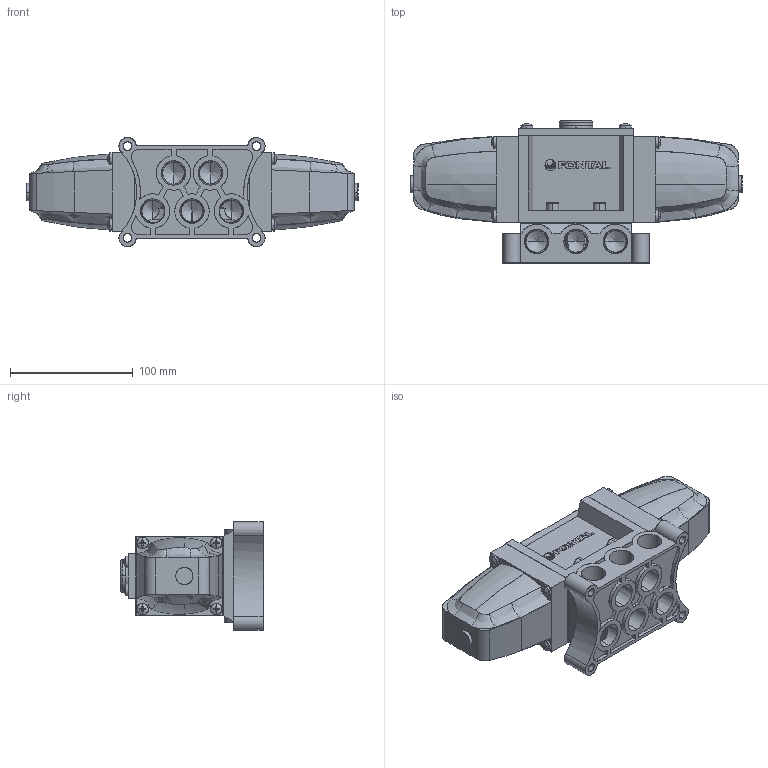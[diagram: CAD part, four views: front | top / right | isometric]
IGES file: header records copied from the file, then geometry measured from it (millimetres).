
Start section: SolidWorks IGES file using analytic representation for surfaces
Global section: file name: D:\Custom\3D繪製\A\A10\AD2410-04-##.IGS,1; native system: 5HSolidWorks 2014; preprocessor: SolidWorks 2014; author: Chieh_Lu; date: 151223.134843; units: millimetre
Bounding box: 270 x 115.6 x 88.6 mm (x, y, z)
Surface area: 166196.9 mm2 (no closed solid volume)
Topology: 0 solids, 0 shells, 931 faces, 11262 edges, 11214 vertices
Faces by surface type: bspline 567, revolution 364
